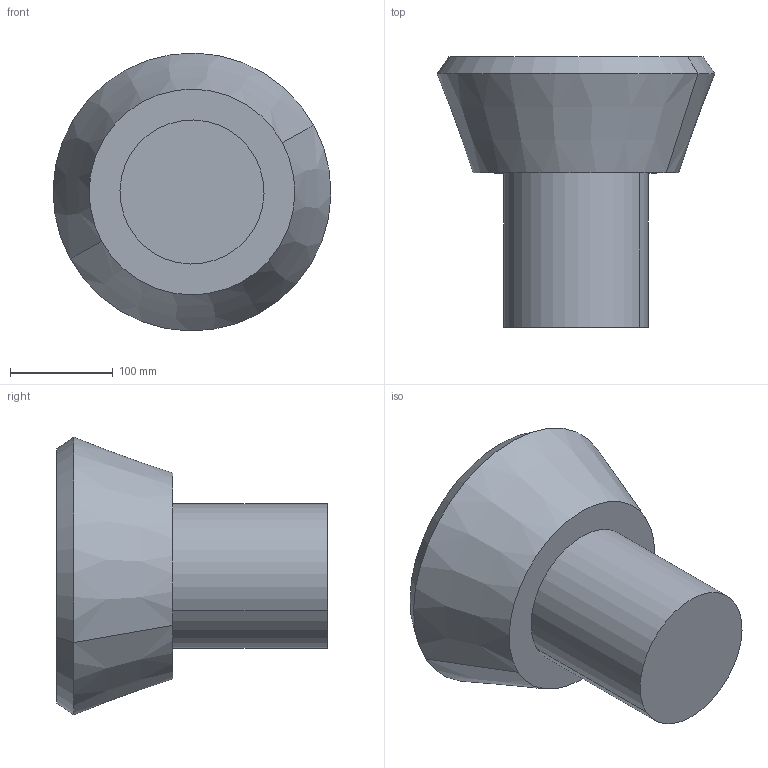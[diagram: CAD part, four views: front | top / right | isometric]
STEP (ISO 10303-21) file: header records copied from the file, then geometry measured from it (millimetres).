
FILE_DESCRIPTION(('CATIA V5 STEP Exchange'),'2;1');
FILE_NAME('C:\_Andres\UNIVERSIDAD\IQS\ASIGNATURAS\DAO\EXF\EXF-15161c\1original\Giménez_Álvarez-Sarandés_Ej09-optimiza_v10.stp','2016-03-04T21:55:28+00:00',('none'),('none'),'CATIA Version 5 Release 20 SP 1 (IN-10)','CATIA V5 STEP AP203','none');
FILE_SCHEMA(('CONFIG_CONTROL_DESIGN'));
Length unit declared in the file: millimetre
Products named in the file (1): Giménez_Álvarez-Sarandés_Ej09-optimiza_v10
Bounding box: 270.08 x 262.76 x 270.08 mm (x, y, z)
Volume: 7366078.9 mm3; surface area: 241788.7 mm2
Topology: 1 solids, 2 shells, 13 faces, 22 edges, 14 vertices
Faces by surface type: plane 5, cylinder 4, cone 4
Entity records: 324 total; most frequent: CARTESIAN_POINT 47, ORIENTED_EDGE 44, DIRECTION 42, AXIS2_PLACEMENT_3D 25, EDGE_CURVE 22, CIRCLE 14, EDGE_LOOP 14, VERTEX_POINT 14
